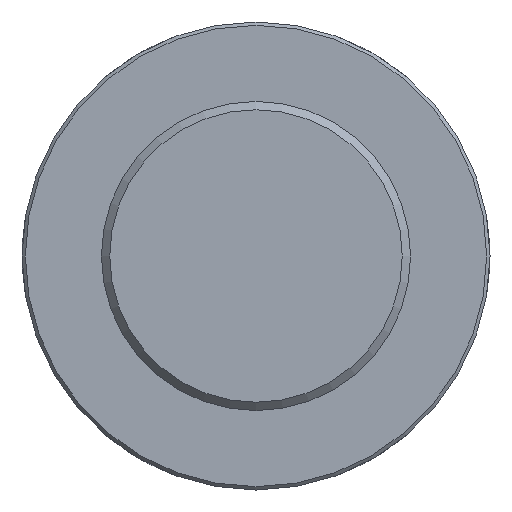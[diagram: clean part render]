
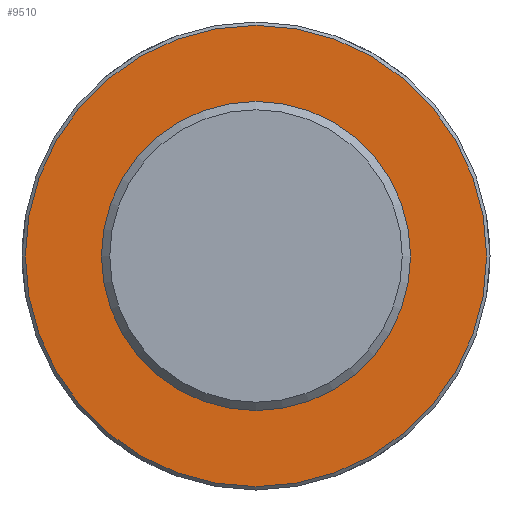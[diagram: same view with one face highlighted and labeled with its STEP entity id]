
A CAD part, front view. The second image highlights one B-rep face of the part: STEP entity #9510.
In plain terms, the highlighted planar face has unit normal (0, -1, 0) as drawn and (0, 1, 0) by its records, which use the part's own axes.
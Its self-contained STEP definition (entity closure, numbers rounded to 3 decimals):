
#73=CIRCLE('',#9834,138.);
#1526=FACE_OUTER_BOUND('',#2112,.T.);
#2112=EDGE_LOOP('',(#8749));
#4608=VERTEX_POINT('',#17702);
#5993=EDGE_CURVE('',#4608,#4608,#73,.T.);
#8749=ORIENTED_EDGE('',*,*,#5993,.F.);
#8998=PLANE('',#9837);
#9510=ADVANCED_FACE('',(#1526),#8998,.T.);
#9834=AXIS2_PLACEMENT_3D('',#17703,#11123,#11124);
#9837=AXIS2_PLACEMENT_3D('',#17941,#11129,#11130);
#11123=DIRECTION('center_axis',(0.,-1.,0.));
#11124=DIRECTION('ref_axis',(1.,0.,0.));
#11129=DIRECTION('center_axis',(0.,1.,0.));
#11130=DIRECTION('ref_axis',(0.,0.,1.));
#17702=CARTESIAN_POINT('',(-138.,130.,0.));
#17703=CARTESIAN_POINT('Origin',(0.,130.,0.));
#17941=CARTESIAN_POINT('Origin',(0.,130.,0.));
